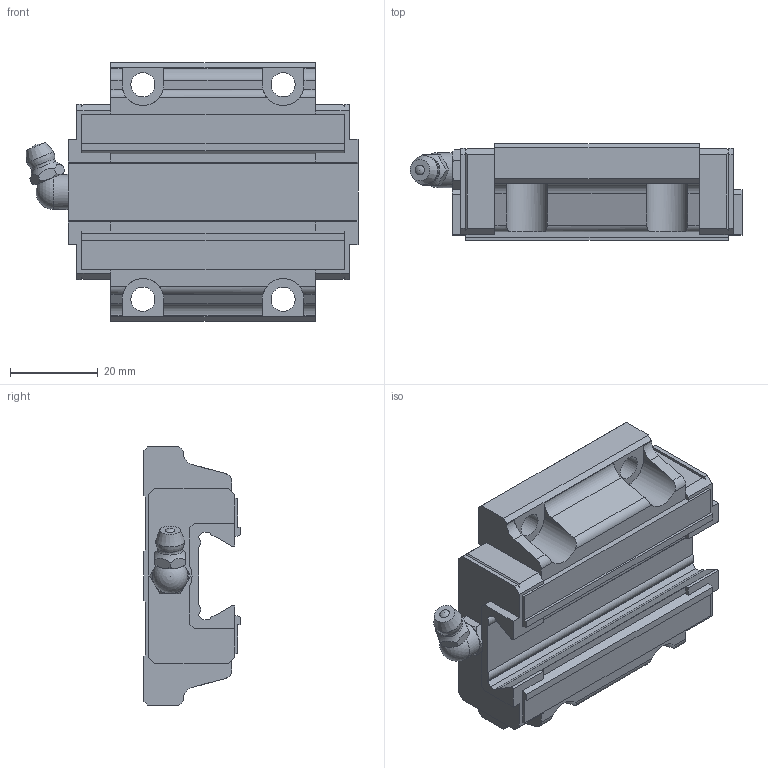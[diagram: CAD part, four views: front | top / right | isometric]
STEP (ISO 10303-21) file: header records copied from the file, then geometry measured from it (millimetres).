
FILE_DESCRIPTION(/* description */ ('STEP AP214'),/* implementation_level */ '2;1');
FILE_NAME(/* name */ 'SR20TB1SS(GK) BLOCK(B-M6F)',/* time_stamp */ '2023-06-01T08:28:58+02:00',/* author */ ('License CC BY-ND 4.0'),/* organization */ ('CADENAS'),/* preprocessor_version */ 'ST-DEVELOPER v19.3',/* originating_system */ 'PARTsolutions',/* authorisation */ ' ');
FILE_SCHEMA (('AUTOMOTIVE_DESIGN {1 0 10303 214 3 1 1}'));
Length unit declared in the file: millimetre
Products named in the file (3): SR20TB1SS(GK) BLOCK(B-M6F); SR-B-M6F_grease_nipple_joint; SR20TBSSB-M6F S
Assembly tree (2 placements, depth 2):
  SR20TB1SS(GK) BLOCK(B-M6F)
    SR-B-M6F_grease_nipple_joint
    SR20TBSSB-M6F S
Bounding box: 75.8 x 22 x 59 mm (x, y, z)
Volume: 53326.5 mm3; surface area: 14544 mm2
Topology: 2 solids, 2 shells, 192 faces, 542 edges, 355 vertices
Faces by surface type: plane 142, cylinder 32, cone 13, sphere 3, torus 2
Full cylindrical faces by diameter (mm): 4.917 x2, 5.5 x4, 6 x1, 8 x1
Entity records: 6139 total; most frequent: CARTESIAN_POINT 1190, ORIENTED_EDGE 1028, DIRECTION 962, EDGE_CURVE 514, LINE 392, VECTOR 392, VERTEX_POINT 349, AXIS2_PLACEMENT_3D 285
